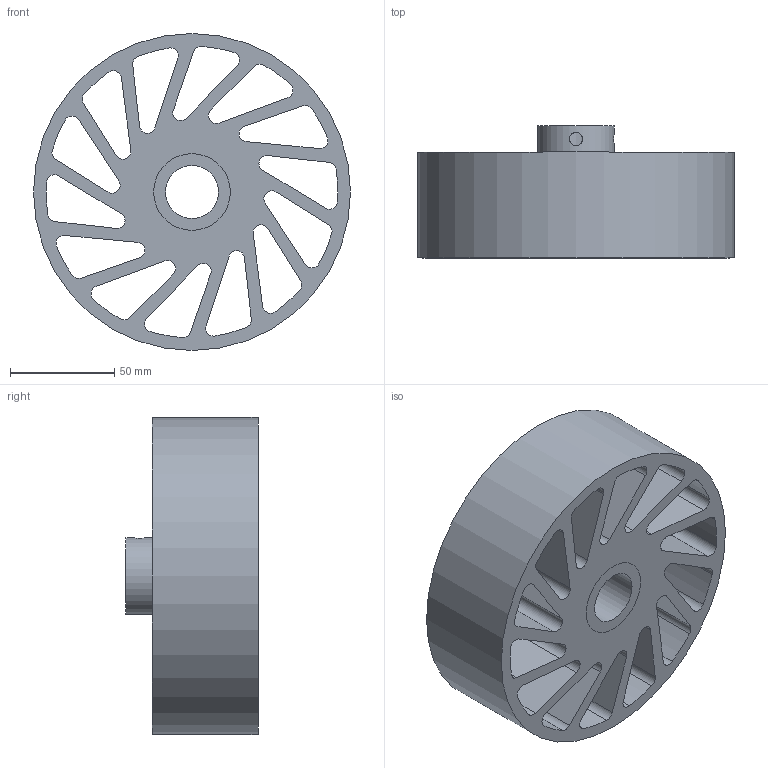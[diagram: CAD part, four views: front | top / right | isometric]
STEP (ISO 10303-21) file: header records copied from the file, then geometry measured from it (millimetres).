
FILE_DESCRIPTION(/* description */ (''),/* implementation_level */ '2;1');
FILE_NAME(/* name */ 'NCW-630-XXX-YYY.stp',/* time_stamp */ '2023-02-02T15:38:23-06:00',/* author */ ('AG'),/* organization */ ('Meridian Laboratory'),/* preprocessor_version */ 'ST-DEVELOPER v18.1',/* originating_system */ 'Autodesk Inventor 2022',/* authorisation */ '');
FILE_SCHEMA (('AUTOMOTIVE_DESIGN { 1 0 10303 214 3 1 1 }'));
Length unit declared in the file: inch
Products named in the file (1): NCW-540
Bounding box: 152.4 x 63.5 x 152.4 mm (x, y, z)
Volume: 500528 mm3; surface area: 135966.1 mm2
Topology: 2 solids, 2 shells, 94 faces, 276 edges, 186 vertices
Faces by surface type: cylinder 62, plane 32
Full cylindrical faces by diameter (mm): 6.35 x2, 25.425 x1, 36.83 x2, 152.4 x1
Entity records: 3518 total; most frequent: CARTESIAN_POINT 697, DIRECTION 576, ORIENTED_EDGE 552, EDGE_CURVE 276, AXIS2_PLACEMENT_3D 215, VERTEX_POINT 186, LINE 146, VECTOR 146
